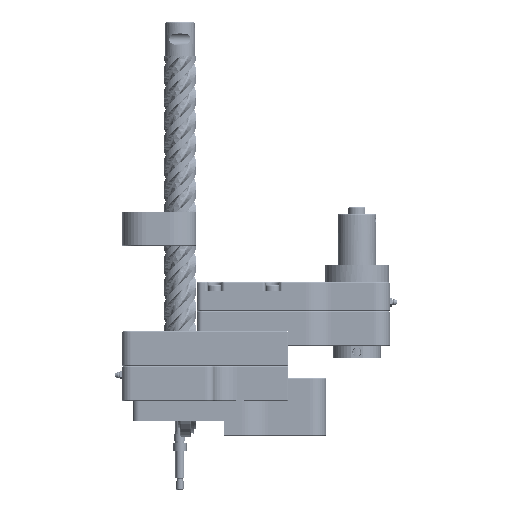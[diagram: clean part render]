
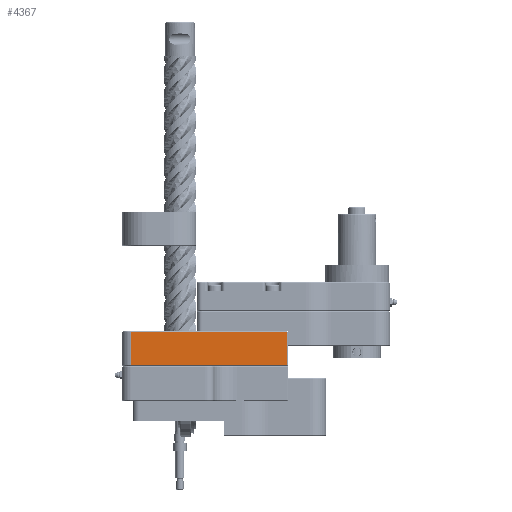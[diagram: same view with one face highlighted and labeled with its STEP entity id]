
A CAD part, front view. The second image highlights one B-rep face of the part: STEP entity #4367.
In plain terms, the highlighted planar face has unit normal (0, -1, 0).
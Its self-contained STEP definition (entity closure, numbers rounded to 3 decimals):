
#4367 = ADVANCED_FACE( '', ( #9799 ), #9800, .F. );
#9799 = FACE_OUTER_BOUND( '', #70426, .T. );
#9800 = PLANE( '', #70427 );
#70426 = EDGE_LOOP( '', ( #120946, #120947, #120948, #120949 ) );
#70427 = AXIS2_PLACEMENT_3D( '', #120950, #120951, #120952 );
#120946 = ORIENTED_EDGE( '', *, *, #131722, .T. );
#120947 = ORIENTED_EDGE( '', *, *, #129999, .T. );
#120948 = ORIENTED_EDGE( '', *, *, #128343, .T. );
#120949 = ORIENTED_EDGE( '', *, *, #129564, .T. );
#120950 = CARTESIAN_POINT( '', ( 115.888, -50.8, 0. ) );
#120951 = DIRECTION( '', ( 0., 1., 0. ) );
#120952 = DIRECTION( '', ( 1., 0., 0. ) );
#128343 = EDGE_CURVE( '', #135866, #133056, #135867, .T. );
#129564 = EDGE_CURVE( '', #133056, #137833, #137835, .T. );
#129999 = EDGE_CURVE( '', #135116, #135866, #138526, .T. );
#131722 = EDGE_CURVE( '', #137833, #135116, #140950, .T. );
#133056 = VERTEX_POINT( '', #142625 );
#135116 = VERTEX_POINT( '', #149545 );
#135866 = VERTEX_POINT( '', #151555 );
#135867 = LINE( '', #151556, #151557 );
#137833 = VERTEX_POINT( '', #158656 );
#137835 = LINE( '', #158659, #158660 );
#138526 = LINE( '', #161603, #161604 );
#140950 = LINE( '', #171718, #171719 );
#142625 = CARTESIAN_POINT( '', ( 115.1, -50.8, 36.551 ) );
#149545 = CARTESIAN_POINT( '', ( -52.388, -50.8, 0.787 ) );
#151555 = CARTESIAN_POINT( '', ( 115.1, -50.8, 0.787 ) );
#151556 = CARTESIAN_POINT( '', ( 115.1, -50.8, 0. ) );
#151557 = VECTOR( '', #178054, 1000. );
#158656 = CARTESIAN_POINT( '', ( -52.388, -50.8, 36.551 ) );
#158659 = CARTESIAN_POINT( '', ( 115.888, -50.8, 36.551 ) );
#158660 = VECTOR( '', #179093, 1000. );
#161603 = CARTESIAN_POINT( '', ( 115.888, -50.8, 0.787 ) );
#161604 = VECTOR( '', #179363, 1000. );
#171718 = CARTESIAN_POINT( '', ( -52.388, -50.8, 0. ) );
#171719 = VECTOR( '', #180690, 1000. );
#178054 = DIRECTION( '', ( 0., 0., 1. ) );
#179093 = DIRECTION( '', ( -1., 0., 0. ) );
#179363 = DIRECTION( '', ( 1., 0., 0. ) );
#180690 = DIRECTION( '', ( 0., 0., -1. ) );
